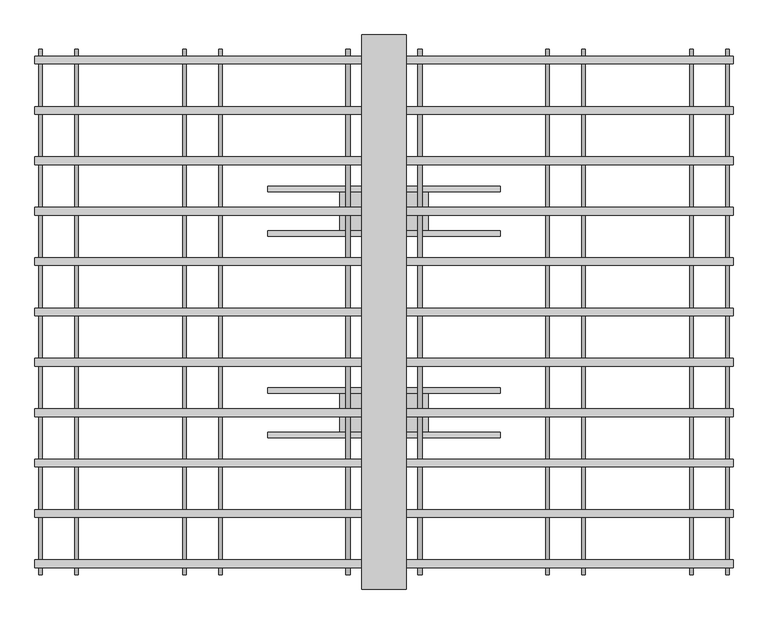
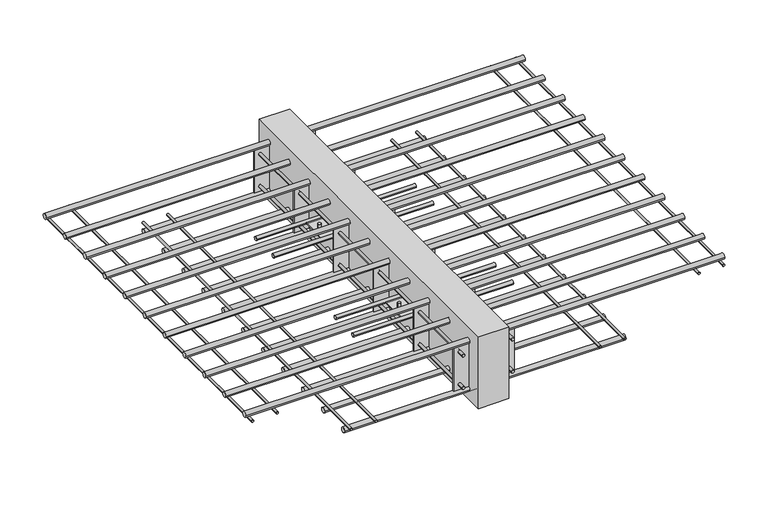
"""IFC4 building model written with IfcOpenShell, lengths in millimetres: fastener geometry, ACINOXplus_Typenreihe_K : KH+ S2."""

import ifcopenshell
import ifcopenshell.guid

model = None  # the IFC model being written
_history = None  # IfcOwnerHistory: only IFC2X3 demands one
_inside = {}  # id of a spatial element -> (the spatial element, [elements in it])
_under = {}  # id of a project, library or spatial element -> (it, [spatial elements below it])
_declared = {}  # id of a project -> (the project, [libraries it declares])
_typed = {}  # id of a type object -> (the type object, [elements of that type])
_made_of = {}  # id of a material, layer set ... -> (it, [elements and type objects made of it])


def new_model(schema):
    """Start an empty IFC model of exactly this schema.

    Asked for "IFC4X3", IfcOpenShell would pick the latest addendum, in which some entities
    have other attributes; the version numbers below select the first issue.
    IFC2X3 requires an IfcOwnerHistory on every rooted entity: one is made here for all.
    """
    global model, _history
    if schema == "IFC4X3":
        model = ifcopenshell.file(schema_version=(4, 3, 0, 0))
    else:
        model = ifcopenshell.file(schema=schema)
    _inside.clear()
    _under.clear()
    _declared.clear()
    _typed.clear()
    _made_of.clear()
    _history = None
    if model.schema == "IFC2X3":
        org = make("IfcOrganization", Name="unknown")
        user = make(
            "IfcPersonAndOrganization",
            ThePerson=make("IfcPerson", FamilyName="unknown"),
            TheOrganization=org,
        )
        app = make(
            "IfcApplication",
            ApplicationDeveloper=org,
            Version="unknown",
            ApplicationFullName="unknown",
            ApplicationIdentifier="unknown",
        )
        _history = make(
            "IfcOwnerHistory",
            OwningUser=user,
            OwningApplication=app,
            ChangeAction="ADDED",
            CreationDate=0,
        )
    return model


def make(cls, **values):
    """One entity of the class cls with the attributes given. An attribute that is None is left unset."""
    return model.create_entity(
        cls, **{name: value for name, value in values.items() if value is not None}
    )


def rooted(cls, **values):
    """An entity with a GlobalId (a new one), such as an element, a storey or a relation."""
    return make(cls, GlobalId=ifcopenshell.guid.new(), OwnerHistory=_history, **values)


def si_unit(unit_type, name, prefix=None):
    """IfcSIUnit, for example si_unit("LENGTHUNIT", "METRE", prefix="MILLI")."""
    return make("IfcSIUnit", UnitType=unit_type, Prefix=prefix, Name=name)


def assignment(units):
    """IfcUnitAssignment: the units of a project."""
    return None if units is None else make("IfcUnitAssignment", Units=units)


def point(xyz):
    """IfcCartesianPoint."""
    return None if xyz is None else make("IfcCartesianPoint", Coordinates=xyz)


def direction(xyz):
    """IfcDirection."""
    return None if xyz is None else make("IfcDirection", DirectionRatios=xyz)


def frame(location, z_axis=None, x_axis=None):
    """IfcAxis2Placement3D, a coordinate frame: its origin and axes. An axis left out is left unset."""
    return make(
        "IfcAxis2Placement3D",
        Location=point(location),
        Axis=direction(z_axis),
        RefDirection=direction(x_axis),
    )


def frame_2d(location, x_axis=None):
    """IfcAxis2Placement2D, a coordinate frame in the plane: its origin and x axis."""
    return make(
        "IfcAxis2Placement2D", Location=point(location), RefDirection=direction(x_axis)
    )


def origin():
    """The frame at (0, 0, 0) with its axes left unset."""
    return frame((0.0, 0.0, 0.0))


def place(relative_to, where):
    """IfcLocalPlacement: puts the frame where relative to a parent placement (None: the world)."""
    return make(
        "IfcLocalPlacement", PlacementRelTo=relative_to, RelativePlacement=where
    )


def context(
    kind, dimensions, precision=None, world=None, true_north=None, identifier=None
):
    """IfcGeometricRepresentationContext, for example the 3D "Model" context."""
    return make(
        "IfcGeometricRepresentationContext",
        ContextIdentifier=identifier,
        ContextType=kind,
        CoordinateSpaceDimension=dimensions,
        Precision=precision,
        WorldCoordinateSystem=world,
        TrueNorth=true_north,
    )


def project(units=None, contexts=None):
    """IfcProject with its units and contexts."""
    return rooted(
        "IfcProject",
        Name="project",
        RepresentationContexts=contexts,
        UnitsInContext=assignment(units),
    )


def spatial(cls, under=None, at=None, **own):
    """A site, building, storey or space (cls), placed at a placement, below another one or the project."""
    s = rooted(cls, ObjectPlacement=at, **own)
    if under is not None:
        _under.setdefault(under.id(), (under, []))[1].append(s)
    return s


def polyline(points):
    """IfcPolyline through the points."""
    return make("IfcPolyline", Points=[point(p) for p in points])


def circle_curve(where, radius):
    """IfcCircle in the frame where."""
    return make("IfcCircle", Position=where, Radius=radius)


def trimmed(basis, trim1, trim2, sense, master):
    """IfcTrimmedCurve: the piece of a basis curve between two trims."""
    return make(
        "IfcTrimmedCurve",
        BasisCurve=basis,
        Trim1=trim1,
        Trim2=trim2,
        SenseAgreement=sense,
        MasterRepresentation=master,
    )


def segment(curve, same_sense, transition):
    """IfcCompositeCurveSegment."""
    return make(
        "IfcCompositeCurveSegment",
        Transition=transition,
        SameSense=same_sense,
        ParentCurve=curve,
    )


def composite_curve(segments, self_intersect=None):
    """IfcCompositeCurve: segments joined end to end."""
    return make("IfcCompositeCurve", Segments=segments, SelfIntersect=self_intersect)


def outline(outer, holes=None, kind="AREA"):
    """IfcArbitraryClosedProfileDef: a profile drawn as a closed curve; with holes, ...WithVoids."""
    if holes is None:
        return make("IfcArbitraryClosedProfileDef", ProfileType=kind, OuterCurve=outer)
    return make(
        "IfcArbitraryProfileDefWithVoids",
        ProfileType=kind,
        OuterCurve=outer,
        InnerCurves=holes,
    )


def extrude(swept, where, along, depth):
    """IfcExtrudedAreaSolid: the profile swept, set in the frame where, extruded along a direction by depth."""
    return make(
        "IfcExtrudedAreaSolid",
        SweptArea=swept,
        Position=where,
        ExtrudedDirection=direction(along),
        Depth=depth,
    )


def shape(context_of_items, identifier, shape_type, items):
    """IfcShapeRepresentation: the items that make up one representation, for example the "Body"."""
    return make(
        "IfcShapeRepresentation",
        ContextOfItems=context_of_items,
        RepresentationIdentifier=identifier,
        RepresentationType=shape_type,
        Items=items,
    )


def source(mapping_origin, context_of_items, identifier, shape_type, items):
    """IfcRepresentationMap: a shape defined once, which mapped items show again and again."""
    return make(
        "IfcRepresentationMap",
        MappingOrigin=mapping_origin,
        MappedRepresentation=shape(context_of_items, identifier, shape_type, items),
    )


def transform(
    local_origin,
    x_axis=None,
    y_axis=None,
    z_axis=None,
    scale=None,
    scale2=None,
    scale3=None,
    uniform=True,
):
    """IfcCartesianTransformationOperator3D, or its non-uniform kind. x_axis, y_axis, z_axis: its Axis1, 2, 3."""
    if uniform:
        return make(
            "IfcCartesianTransformationOperator3D",
            Axis1=direction(x_axis),
            Axis2=direction(y_axis),
            LocalOrigin=point(local_origin),
            Scale=scale,
            Axis3=direction(z_axis),
        )
    return make(
        "IfcCartesianTransformationOperator3DnonUniform",
        Axis1=direction(x_axis),
        Axis2=direction(y_axis),
        LocalOrigin=point(local_origin),
        Scale=scale,
        Axis3=direction(z_axis),
        Scale2=scale2,
        Scale3=scale3,
    )


def mapped(mapping_source, mapping_target):
    """IfcMappedItem: shows the shape of a source again, moved by a transform."""
    return make(
        "IfcMappedItem", MappingSource=mapping_source, MappingTarget=mapping_target
    )


def made_of(thing, what):
    """Note that an element or type object is made of a material, layer set ...; save() writes the relation."""
    if what is not None:
        _made_of.setdefault(what.id(), (what, []))[1].append(thing)
    return thing


def element(
    cls,
    number,
    at=None,
    inside=None,
    cuts=None,
    type_object=None,
    material=None,
    context=None,
    identifier="Body",
    shape_type=None,
    held_by="IfcProductDefinitionShape",
    body=None,
    shapes=None,
    **own,
):
    """One element of the class cls, such as IfcWall. Its Tag is "e" and its number.

    at: its placement. inside: the storey or other place that contains it. cuts: it is an
    opening in that element (IfcRelVoidsElement). A single representation is given by context,
    identifier, shape_type and body (its items); several are given by shapes. held_by: the class
    of the entity that holds the representations. save() writes the other relations.
    """
    e = rooted(cls, Tag="e%d" % number, ObjectPlacement=at, **own)
    if body is not None:
        shapes = [shape(context, identifier, shape_type, body)]
    if shapes is not None:
        e.Representation = make(held_by, Representations=shapes)
    if inside is not None:
        _inside.setdefault(inside.id(), (inside, []))[1].append(e)
    if cuts is not None:
        rooted(
            "IfcRelVoidsElement", RelatingBuildingElement=cuts, RelatedOpeningElement=e
        )
    if type_object is not None:
        _typed.setdefault(type_object.id(), (type_object, []))[1].append(e)
    return made_of(e, material)


def aggregate(whole, parts):
    """IfcRelAggregates: a whole, such as a stair, and the parts it consists of."""
    return rooted("IfcRelAggregates", RelatingObject=whole, RelatedObjects=parts)


def save(model, path):
    """Write the relations noted so far, then the file.

    IfcRelAggregates (storeys below a building ...), IfcRelContainedInSpatialStructure (elements
    in a storey), IfcRelDefinesByType, IfcRelAssociatesMaterial and IfcRelDeclares: one each for
    every whole, place, type object, material and project.
    """
    for whole, parts in _under.values():
        aggregate(whole, parts)
    for where, things in _inside.values():
        rooted(
            "IfcRelContainedInSpatialStructure",
            RelatedElements=things,
            RelatingStructure=where,
        )
    for kind, things in _typed.values():
        rooted("IfcRelDefinesByType", RelatedObjects=things, RelatingType=kind)
    for what, things in _made_of.values():
        rooted("IfcRelAssociatesMaterial", RelatedObjects=things, RelatingMaterial=what)
    for by, libraries in _declared.values():
        rooted("IfcRelDeclares", RelatingContext=by, RelatedDefinitions=libraries)
    model.write(path)


def plane_surface(at):
    """IfcPlane: the flat surface through the origin of the frame at, square to its z axis."""
    return make("IfcPlane", Position=at)


def cylinder_surface(at, radius):
    """IfcCylindricalSurface: all points at the distance radius from the z axis of the frame at."""
    return make("IfcCylindricalSurface", Position=at, Radius=radius)


def advanced_brep(points, edges, surfaces, faces):
    """IfcAdvancedBrep: a solid bounded by faces that lie on surfaces and meet in shared edges.

    An edge is (start, end): straight between two places in points (the first is 0);
    or (start, end, curve); or (start, end, curve, False) where it runs against its curve.
    A face is (place in surfaces, loops), or (place, loops, False) where it looks against
    its surface's normal. A loop lists edges by number (the first is 1), with a minus sign
    where the edge is run from its end to its start. The first loop is the outer one.
    """
    corners = [point(p) for p in points]
    vertices = [make("IfcVertexPoint", VertexGeometry=c) for c in corners]
    made = []
    for start, end, *more in edges:
        made.append(
            make(
                "IfcEdgeCurve",
                EdgeStart=vertices[start],
                EdgeEnd=vertices[end],
                EdgeGeometry=more[0] if more else make("IfcPolyline", Points=[corners[start], corners[end]]),
                SameSense=more[1] if len(more) > 1 else True,
            )
        )
    hull = []
    for where, loops, *sense in faces:
        bounds = []
        for j, loop in enumerate(loops):
            ring = [make("IfcOrientedEdge", EdgeElement=made[abs(k) - 1], Orientation=k > 0) for k in loop]
            bounds.append(
                make(
                    "IfcFaceOuterBound" if j == 0 else "IfcFaceBound",
                    Bound=make("IfcEdgeLoop", EdgeList=ring),
                    Orientation=True,
                )
            )
        hull.append(make("IfcAdvancedFace", Bounds=bounds, FaceSurface=surfaces[where], SameSense=sense[0] if sense else True))
    return make("IfcAdvancedBrep", Outer=make("IfcClosedShell", CfsFaces=hull))


def fastener_6efecafc(model_context):
    return source(origin(), model_context, "Body", "SolidModel", [
        extrude(outline(composite_curve([segment(trimmed(circle_curve(frame_2d((-221.8181818, -104.0)), 5.0), [point((-226.8181818, -104.0))], [point((-216.8181818, -104.0))], False, "CARTESIAN"), True, "CONTINUOUS"), segment(trimmed(circle_curve(frame_2d((-221.8181818, -104.0)), 5.0), [point((-216.8181818, -104.0))], [point((-226.8181818, -104.0))], False, "CARTESIAN"), True, "CONTINUOUS")], self_intersect=False)), frame((-210.0, 0.0, 0.0), z_axis=(1.0, 0.0, 0.0), x_axis=(0.0, 1.0, 0.0)), (0.0, 0.0, 1.0), 420.0),
        extrude(outline(composite_curve([segment(trimmed(circle_curve(frame_2d((-141.8181818, -104.0)), 5.0), [point((-146.8181818, -104.0))], [point((-136.8181818, -104.0))], False, "CARTESIAN"), True, "CONTINUOUS"), segment(trimmed(circle_curve(frame_2d((-141.8181818, -104.0)), 5.0), [point((-136.8181818, -104.0))], [point((-146.8181818, -104.0))], False, "CARTESIAN"), True, "CONTINUOUS")], self_intersect=False)), frame((-210.0, 0.0, 0.0), z_axis=(1.0, 0.0, 0.0), x_axis=(0.0, 1.0, 0.0)), (0.0, 0.0, 1.0), 420.0),
        advanced_brep(
        [(-69.0, -181.8181818, -89.0), (-61.0, -181.8181818, -89.0), (61.0, -181.8181818, -89.0), (69.0, -181.8181818, -89.0), (-69.0, -181.8181818, -119.0), (-61.0, -181.8181818, -119.0), (61.0, -181.8181818, -119.0), (69.0, -181.8181818, -119.0), (-69.0, -181.8181818, -102.5), (-61.0, -181.8181818, -102.5), (-61.0, -181.8181818, -105.5), (-69.0, -181.8181818, -105.5), (61.0, -181.8181818, -102.5), (69.0, -181.8181818, -102.5), (69.0, -181.8181818, -105.5), (61.0, -181.8181818, -105.5), (80.0, -146.8181818, -102.5), (-80.0, -146.8181818, -102.5), (-80.0, -216.8181818, -102.5), (80.0, -216.8181818, -102.5), (80.0, -146.8181818, -105.5), (80.0, -216.8181818, -105.5), (-80.0, -216.8181818, -105.5), (-80.0, -146.8181818, -105.5)],
        [
            (0, 1, circle_curve(frame((-65.0, -181.8181818, -89.0), z_axis=(0.0, 0.0, 1.0), x_axis=(1.0, 0.0, 0.0)), 4.0)),
            (1, 0, circle_curve(frame((-65.0, -181.8181818, -89.0), z_axis=(0.0, 0.0, 1.0), x_axis=(1.0, 0.0, 0.0)), 4.0)),
            (2, 3, circle_curve(frame((65.0, -181.8181818, -89.0), z_axis=(0.0, 0.0, 1.0), x_axis=(1.0, 0.0, 0.0)), 4.0)),
            (3, 2, circle_curve(frame((65.0, -181.8181818, -89.0), z_axis=(0.0, 0.0, 1.0), x_axis=(1.0, 0.0, 0.0)), 4.0)),
            (4, 5, circle_curve(frame((-65.0, -181.8181818, -119.0), z_axis=(0.0, 0.0, -1.0), x_axis=(1.0, 0.0, 0.0)), 4.0)),
            (5, 4, circle_curve(frame((-65.0, -181.8181818, -119.0), z_axis=(0.0, 0.0, -1.0), x_axis=(1.0, 0.0, 0.0)), 4.0)),
            (6, 7, circle_curve(frame((65.0, -181.8181818, -119.0), z_axis=(0.0, 0.0, -1.0), x_axis=(1.0, 0.0, 0.0)), 4.0)),
            (7, 6, circle_curve(frame((65.0, -181.8181818, -119.0), z_axis=(0.0, 0.0, -1.0), x_axis=(1.0, 0.0, 0.0)), 4.0)),
            (0, 8),
            (8, 9, circle_curve(frame((-65.0, -181.8181818, -102.5), z_axis=(0.0, 0.0, 1.0), x_axis=(1.0, 0.0, 0.0)), 4.0)),
            (9, 1),
            (5, 10),
            (10, 11, circle_curve(frame((-65.0, -181.8181818, -105.5), z_axis=(0.0, 0.0, -1.0), x_axis=(1.0, 0.0, 0.0)), 4.0)),
            (11, 4),
            (9, 8, circle_curve(frame((-65.0, -181.8181818, -102.5), z_axis=(0.0, 0.0, 1.0), x_axis=(1.0, 0.0, 0.0)), 4.0)),
            (11, 10, circle_curve(frame((-65.0, -181.8181818, -105.5), z_axis=(0.0, 0.0, -1.0), x_axis=(1.0, 0.0, 0.0)), 4.0)),
            (2, 12),
            (12, 13, circle_curve(frame((65.0, -181.8181818, -102.5), z_axis=(0.0, 0.0, 1.0), x_axis=(1.0, 0.0, 0.0)), 4.0)),
            (13, 3),
            (7, 14),
            (14, 15, circle_curve(frame((65.0, -181.8181818, -105.5), z_axis=(0.0, 0.0, -1.0), x_axis=(1.0, 0.0, 0.0)), 4.0)),
            (15, 6),
            (13, 12, circle_curve(frame((65.0, -181.8181818, -102.5), z_axis=(0.0, 0.0, 1.0), x_axis=(1.0, 0.0, 0.0)), 4.0)),
            (15, 14, circle_curve(frame((65.0, -181.8181818, -105.5), z_axis=(0.0, 0.0, -1.0), x_axis=(1.0, 0.0, 0.0)), 4.0)),
            (16, 17),
            (17, 18),
            (18, 19),
            (19, 16),
            (20, 21),
            (21, 22),
            (22, 23),
            (23, 20),
            (16, 20),
            (23, 17),
            (22, 18),
            (21, 19),
        ],
        [
            plane_surface(frame((-61.0, -181.8181818, -89.0), z_axis=(0.0, 0.0, 1.0), x_axis=(0.0, 1.0, 0.0))),
            plane_surface(frame((-61.0, -181.8181818, -119.0), z_axis=(0.0, 0.0, -1.0), x_axis=(0.0, -1.0, 0.0))),
            cylinder_surface(frame((-65.0, -181.8181818, -119.0), z_axis=(0.0, 0.0, 1.0), x_axis=(1.0, 0.0, 0.0)), 4.0),
            cylinder_surface(frame((65.0, -181.8181818, -104.0), z_axis=(0.0, 0.0, 1.0), x_axis=(1.0, 0.0, 0.0)), 4.0),
            plane_surface(frame((-80.0, -146.8181818, -102.5), z_axis=(0.0, 0.0, 1.0), x_axis=(-1.0, 0.0, 0.0))),
            plane_surface(frame((-80.0, -146.8181818, -105.5), z_axis=(0.0, 0.0, -1.0), x_axis=(1.0, 0.0, 0.0))),
            plane_surface(frame((80.0, -146.8181818, -102.5), z_axis=(0.0, 1.0, 0.0), x_axis=(0.0, 0.0, -1.0))),
            plane_surface(frame((-80.0, -146.8181818, -102.5), z_axis=(-1.0, 0.0, 0.0), x_axis=(0.0, 0.0, -1.0))),
            plane_surface(frame((-80.0, -216.8181818, -102.5), z_axis=(0.0, -1.0, 0.0), x_axis=(0.0, 0.0, -1.0))),
            plane_surface(frame((80.0, -216.8181818, -102.5), z_axis=(1.0, 0.0, 0.0), x_axis=(0.0, 0.0, -1.0))),
        ],
        [
            (0, [[1, 2]]),
            (0, [[3, 4]]),
            (1, [[5, 6]]),
            (1, [[7, 8]]),
            (2, [[-1, 9, 10, 11]]),
            (2, [[-6, 12, 13, 14]]),
            (2, [[-2, -11, 15, -9]]),
            (2, [[-5, -14, 16, -12]]),
            (3, [[-3, 17, 18, 19]]),
            (3, [[-8, 20, 21, 22]]),
            (3, [[-4, -19, 23, -17]]),
            (3, [[-7, -22, 24, -20]]),
            (4, [[25, 26, 27, 28], [-10, -15], [-18, -23]]),
            (5, [[29, 30, 31, 32], [-13, -16], [-21, -24]]),
            (6, [[-25, 33, -32, 34]]),
            (7, [[-26, -34, -31, 35]]),
            (8, [[-27, -35, -30, 36]]),
            (9, [[-28, -36, -29, -33]]),
        ],
    ),
        extrude(outline(composite_curve([segment(trimmed(circle_curve(frame_2d((141.8181818, -104.0)), 5.0), [point((136.8181818, -104.0))], [point((146.8181818, -104.0))], False, "CARTESIAN"), True, "CONTINUOUS"), segment(trimmed(circle_curve(frame_2d((141.8181818, -104.0)), 5.0), [point((146.8181818, -104.0))], [point((136.8181818, -104.0))], False, "CARTESIAN"), True, "CONTINUOUS")], self_intersect=False)), frame((-210.0, 0.0, 0.0), z_axis=(1.0, 0.0, 0.0), x_axis=(0.0, 1.0, 0.0)), (0.0, 0.0, 1.0), 420.0),
        extrude(outline(composite_curve([segment(trimmed(circle_curve(frame_2d((221.8181818, -104.0)), 5.0), [point((216.8181818, -104.0))], [point((226.8181818, -104.0))], False, "CARTESIAN"), True, "CONTINUOUS"), segment(trimmed(circle_curve(frame_2d((221.8181818, -104.0)), 5.0), [point((226.8181818, -104.0))], [point((216.8181818, -104.0))], False, "CARTESIAN"), True, "CONTINUOUS")], self_intersect=False)), frame((-210.0, 0.0, 0.0), z_axis=(1.0, 0.0, 0.0), x_axis=(0.0, 1.0, 0.0)), (0.0, 0.0, 1.0), 420.0),
        advanced_brep(
        [(-69.0, 181.8181818, -89.0), (-61.0, 181.8181818, -89.0), (61.0, 181.8181818, -89.0), (69.0, 181.8181818, -89.0), (-69.0, 181.8181818, -119.0), (-61.0, 181.8181818, -119.0), (61.0, 181.8181818, -119.0), (69.0, 181.8181818, -119.0), (-69.0, 181.8181818, -102.5), (-61.0, 181.8181818, -102.5), (-61.0, 181.8181818, -105.5), (-69.0, 181.8181818, -105.5), (61.0, 181.8181818, -102.5), (69.0, 181.8181818, -102.5), (69.0, 181.8181818, -105.5), (61.0, 181.8181818, -105.5), (80.0, 216.8181818, -102.5), (-80.0, 216.8181818, -102.5), (-80.0, 146.8181818, -102.5), (80.0, 146.8181818, -102.5), (80.0, 216.8181818, -105.5), (80.0, 146.8181818, -105.5), (-80.0, 146.8181818, -105.5), (-80.0, 216.8181818, -105.5)],
        [
            (0, 1, circle_curve(frame((-65.0, 181.8181818, -89.0), z_axis=(0.0, 0.0, 1.0), x_axis=(1.0, 0.0, 0.0)), 4.0)),
            (1, 0, circle_curve(frame((-65.0, 181.8181818, -89.0), z_axis=(0.0, 0.0, 1.0), x_axis=(1.0, 0.0, 0.0)), 4.0)),
            (2, 3, circle_curve(frame((65.0, 181.8181818, -89.0), z_axis=(0.0, 0.0, 1.0), x_axis=(1.0, 0.0, 0.0)), 4.0)),
            (3, 2, circle_curve(frame((65.0, 181.8181818, -89.0), z_axis=(0.0, 0.0, 1.0), x_axis=(1.0, 0.0, 0.0)), 4.0)),
            (4, 5, circle_curve(frame((-65.0, 181.8181818, -119.0), z_axis=(0.0, 0.0, -1.0), x_axis=(1.0, 0.0, 0.0)), 4.0)),
            (5, 4, circle_curve(frame((-65.0, 181.8181818, -119.0), z_axis=(0.0, 0.0, -1.0), x_axis=(1.0, 0.0, 0.0)), 4.0)),
            (6, 7, circle_curve(frame((65.0, 181.8181818, -119.0), z_axis=(0.0, 0.0, -1.0), x_axis=(1.0, 0.0, 0.0)), 4.0)),
            (7, 6, circle_curve(frame((65.0, 181.8181818, -119.0), z_axis=(0.0, 0.0, -1.0), x_axis=(1.0, 0.0, 0.0)), 4.0)),
            (0, 8),
            (8, 9, circle_curve(frame((-65.0, 181.8181818, -102.5), z_axis=(0.0, 0.0, 1.0), x_axis=(1.0, 0.0, 0.0)), 4.0)),
            (9, 1),
            (5, 10),
            (10, 11, circle_curve(frame((-65.0, 181.8181818, -105.5), z_axis=(0.0, 0.0, -1.0), x_axis=(1.0, 0.0, 0.0)), 4.0)),
            (11, 4),
            (9, 8, circle_curve(frame((-65.0, 181.8181818, -102.5), z_axis=(0.0, 0.0, 1.0), x_axis=(1.0, 0.0, 0.0)), 4.0)),
            (11, 10, circle_curve(frame((-65.0, 181.8181818, -105.5), z_axis=(0.0, 0.0, -1.0), x_axis=(1.0, 0.0, 0.0)), 4.0)),
            (2, 12),
            (12, 13, circle_curve(frame((65.0, 181.8181818, -102.5), z_axis=(0.0, 0.0, 1.0), x_axis=(1.0, 0.0, 0.0)), 4.0)),
            (13, 3),
            (7, 14),
            (14, 15, circle_curve(frame((65.0, 181.8181818, -105.5), z_axis=(0.0, 0.0, -1.0), x_axis=(1.0, 0.0, 0.0)), 4.0)),
            (15, 6),
            (13, 12, circle_curve(frame((65.0, 181.8181818, -102.5), z_axis=(0.0, 0.0, 1.0), x_axis=(1.0, 0.0, 0.0)), 4.0)),
            (15, 14, circle_curve(frame((65.0, 181.8181818, -105.5), z_axis=(0.0, 0.0, -1.0), x_axis=(1.0, 0.0, 0.0)), 4.0)),
            (16, 17),
            (17, 18),
            (18, 19),
            (19, 16),
            (20, 21),
            (21, 22),
            (22, 23),
            (23, 20),
            (16, 20),
            (23, 17),
            (22, 18),
            (21, 19),
        ],
        [
            plane_surface(frame((-61.0, 181.8181818, -89.0), z_axis=(0.0, 0.0, 1.0), x_axis=(0.0, 1.0, 0.0))),
            plane_surface(frame((-61.0, 181.8181818, -119.0), z_axis=(0.0, 0.0, -1.0), x_axis=(0.0, -1.0, 0.0))),
            cylinder_surface(frame((-65.0, 181.8181818, -119.0), z_axis=(0.0, 0.0, 1.0), x_axis=(1.0, 0.0, 0.0)), 4.0),
            cylinder_surface(frame((65.0, 181.8181818, -104.0), z_axis=(0.0, 0.0, 1.0), x_axis=(1.0, 0.0, 0.0)), 4.0),
            plane_surface(frame((-80.0, 216.8181818, -102.5), z_axis=(0.0, 0.0, 1.0), x_axis=(-1.0, 0.0, 0.0))),
            plane_surface(frame((-80.0, 216.8181818, -105.5), z_axis=(0.0, 0.0, -1.0), x_axis=(1.0, 0.0, 0.0))),
            plane_surface(frame((80.0, 216.8181818, -102.5), z_axis=(0.0, 1.0, 0.0), x_axis=(0.0, 0.0, -1.0))),
            plane_surface(frame((-80.0, 216.8181818, -102.5), z_axis=(-1.0, 0.0, 0.0), x_axis=(0.0, 0.0, -1.0))),
            plane_surface(frame((-80.0, 146.8181818, -102.5), z_axis=(0.0, -1.0, 0.0), x_axis=(0.0, 0.0, -1.0))),
            plane_surface(frame((80.0, 146.8181818, -102.5), z_axis=(1.0, 0.0, 0.0), x_axis=(0.0, 0.0, -1.0))),
        ],
        [
            (0, [[1, 2]]),
            (0, [[3, 4]]),
            (1, [[5, 6]]),
            (1, [[7, 8]]),
            (2, [[-1, 9, 10, 11]]),
            (2, [[-6, 12, 13, 14]]),
            (2, [[-2, -11, 15, -9]]),
            (2, [[-5, -14, 16, -12]]),
            (3, [[-3, 17, 18, 19]]),
            (3, [[-8, 20, 21, 22]]),
            (3, [[-4, -19, 23, -17]]),
            (3, [[-7, -22, 24, -20]]),
            (4, [[25, 26, 27, 28], [-10, -15], [-18, -23]]),
            (5, [[29, 30, 31, 32], [-13, -16], [-21, -24]]),
            (6, [[-25, 33, -32, 34]]),
            (7, [[-26, -34, -31, 35]]),
            (8, [[-27, -35, -30, 36]]),
            (9, [[-28, -36, -29, -33]]),
        ],
    ),
        extrude(outline(polyline([(40.0, 500.0), (40.0, -500.0), (-40.0, -500.0), (-40.0, 500.0), (40.0, 500.0)])), frame((0.0, 0.0, -200.0), z_axis=(0.0, 0.0, 1.0), x_axis=(1.0, 0.0, 0.0)), (0.0, 0.0, 1.0), 200.0),
        extrude(outline(polyline([(80.0, -271.2272727), (80.0, -274.2272727), (-80.0, -274.2272727), (-80.0, -271.2272727), (80.0, -271.2272727)])), frame((0.0, 0.0, -164.0), z_axis=(0.0, 0.0, 1.0), x_axis=(1.0, 0.0, 0.0)), (0.0, 0.0, 1.0), 120.0),
        extrude(outline(polyline([(80.0, -89.4090909), (80.0, -92.4090909), (-80.0, -92.4090909), (-80.0, -89.4090909), (80.0, -89.4090909)])), frame((0.0, 0.0, -164.0), z_axis=(0.0, 0.0, 1.0), x_axis=(1.0, 0.0, 0.0)), (0.0, 0.0, 1.0), 120.0),
        extrude(outline(polyline([(80.0, 92.4090909), (80.0, 89.4090909), (-80.0, 89.4090909), (-80.0, 92.4090909), (80.0, 92.4090909)])), frame((0.0, 0.0, -164.0), z_axis=(0.0, 0.0, 1.0), x_axis=(1.0, 0.0, 0.0)), (0.0, 0.0, 1.0), 120.0),
        extrude(outline(polyline([(80.0, 274.2272727), (80.0, 271.2272727), (-80.0, 271.2272727), (-80.0, 274.2272727), (80.0, 274.2272727)])), frame((0.0, 0.0, -164.0), z_axis=(0.0, 0.0, 1.0), x_axis=(1.0, 0.0, 0.0)), (0.0, 0.0, 1.0), 120.0),
        extrude(outline(polyline([(80.0, -453.0454545), (80.0, -456.0454545), (-80.0, -456.0454545), (-80.0, -453.0454545), (80.0, -453.0454545)])), frame((0.0, 0.0, -164.0), z_axis=(0.0, 0.0, 1.0), x_axis=(1.0, 0.0, 0.0)), (0.0, 0.0, 1.0), 120.0),
        extrude(outline(polyline([(80.0, 456.0454545), (80.0, 453.0454545), (-80.0, 453.0454545), (-80.0, 456.0454545), (80.0, 456.0454545)])), frame((0.0, 0.0, -164.0), z_axis=(0.0, 0.0, 1.0), x_axis=(1.0, 0.0, 0.0)), (0.0, 0.0, 1.0), 120.0),
        extrude(outline(composite_curve([segment(trimmed(circle_curve(frame_2d((-149.0, -65.0)), 4.0), [point((-149.0, -61.0))], [point((-149.0, -69.0))], False, "CARTESIAN"), True, "CONTINUOUS"), segment(trimmed(circle_curve(frame_2d((-149.0, -65.0)), 4.0), [point((-149.0, -69.0))], [point((-149.0, -61.0))], False, "CARTESIAN"), True, "CONTINUOUS")], self_intersect=False)), frame((0.0, -474.5454545, 0.0), z_axis=(0.0, 1.0, 0.0), x_axis=(0.0, 0.0, 1.0)), (0.0, 0.0, 1.0), 18.5),
        extrude(outline(composite_curve([segment(trimmed(circle_curve(frame_2d((-149.0, -65.0)), 4.0), [point((-149.0, -69.0))], [point((-149.0, -61.0))], False, "CARTESIAN"), True, "CONTINUOUS"), segment(trimmed(circle_curve(frame_2d((-149.0, -65.0)), 4.0), [point((-149.0, -61.0))], [point((-149.0, -69.0))], False, "CARTESIAN"), True, "CONTINUOUS")], self_intersect=False)), frame((0.0, -453.0454545, 0.0), z_axis=(0.0, 1.0, 0.0), x_axis=(0.0, 0.0, 1.0)), (0.0, 0.0, 1.0), 724.2727273),
        extrude(outline(composite_curve([segment(trimmed(circle_curve(frame_2d((-149.0, -65.0)), 4.0), [point((-149.0, -69.0))], [point((-149.0, -61.0))], False, "CARTESIAN"), True, "CONTINUOUS"), segment(trimmed(circle_curve(frame_2d((-149.0, -65.0)), 4.0), [point((-149.0, -61.0))], [point((-149.0, -69.0))], False, "CARTESIAN"), True, "CONTINUOUS")], self_intersect=False)), frame((0.0, 456.0454545, 0.0), z_axis=(0.0, 1.0, 0.0), x_axis=(0.0, 0.0, 1.0)), (0.0, 0.0, 1.0), 18.5),
        extrude(outline(composite_curve([segment(trimmed(circle_curve(frame_2d((-149.0, -65.0)), 4.0), [point((-149.0, -69.0))], [point((-149.0, -61.0))], False, "CARTESIAN"), True, "CONTINUOUS"), segment(trimmed(circle_curve(frame_2d((-149.0, -65.0)), 4.0), [point((-149.0, -61.0))], [point((-149.0, -69.0))], False, "CARTESIAN"), True, "CONTINUOUS")], self_intersect=False)), frame((0.0, 274.2272727, 0.0), z_axis=(0.0, 1.0, 0.0), x_axis=(0.0, 0.0, 1.0)), (0.0, 0.0, 1.0), 178.8181818),
        extrude(outline(composite_curve([segment(trimmed(circle_curve(frame_2d((-149.0, 65.0)), 4.0), [point((-149.0, 69.0))], [point((-149.0, 61.0))], False, "CARTESIAN"), True, "CONTINUOUS"), segment(trimmed(circle_curve(frame_2d((-149.0, 65.0)), 4.0), [point((-149.0, 61.0))], [point((-149.0, 69.0))], False, "CARTESIAN"), True, "CONTINUOUS")], self_intersect=False)), frame((0.0, -474.5454545, 0.0), z_axis=(0.0, 1.0, 0.0), x_axis=(0.0, 0.0, 1.0)), (0.0, 0.0, 1.0), 18.5),
        extrude(outline(composite_curve([segment(trimmed(circle_curve(frame_2d((-149.0, 65.0)), 4.0), [point((-149.0, 61.0))], [point((-149.0, 69.0))], False, "CARTESIAN"), True, "CONTINUOUS"), segment(trimmed(circle_curve(frame_2d((-149.0, 65.0)), 4.0), [point((-149.0, 69.0))], [point((-149.0, 61.0))], False, "CARTESIAN"), True, "CONTINUOUS")], self_intersect=False)), frame((0.0, -453.0454545, 0.0), z_axis=(0.0, 1.0, 0.0), x_axis=(0.0, 0.0, 1.0)), (0.0, 0.0, 1.0), 724.2727273),
        extrude(outline(composite_curve([segment(trimmed(circle_curve(frame_2d((-149.0, 65.0)), 4.0), [point((-149.0, 61.0))], [point((-149.0, 69.0))], False, "CARTESIAN"), True, "CONTINUOUS"), segment(trimmed(circle_curve(frame_2d((-149.0, 65.0)), 4.0), [point((-149.0, 69.0))], [point((-149.0, 61.0))], False, "CARTESIAN"), True, "CONTINUOUS")], self_intersect=False)), frame((0.0, 456.0454545, 0.0), z_axis=(0.0, 1.0, 0.0), x_axis=(0.0, 0.0, 1.0)), (0.0, 0.0, 1.0), 18.5),
        extrude(outline(composite_curve([segment(trimmed(circle_curve(frame_2d((-149.0, 65.0)), 4.0), [point((-149.0, 61.0))], [point((-149.0, 69.0))], False, "CARTESIAN"), True, "CONTINUOUS"), segment(trimmed(circle_curve(frame_2d((-149.0, 65.0)), 4.0), [point((-149.0, 69.0))], [point((-149.0, 61.0))], False, "CARTESIAN"), True, "CONTINUOUS")], self_intersect=False)), frame((0.0, 274.2272727, 0.0), z_axis=(0.0, 1.0, 0.0), x_axis=(0.0, 0.0, 1.0)), (0.0, 0.0, 1.0), 178.8181818),
        extrude(outline(composite_curve([segment(trimmed(circle_curve(frame_2d((-59.0, -65.0)), 4.0), [point((-59.0, -61.0))], [point((-59.0, -69.0))], False, "CARTESIAN"), True, "CONTINUOUS"), segment(trimmed(circle_curve(frame_2d((-59.0, -65.0)), 4.0), [point((-59.0, -69.0))], [point((-59.0, -61.0))], False, "CARTESIAN"), True, "CONTINUOUS")], self_intersect=False)), frame((0.0, -474.5454545, 0.0), z_axis=(0.0, 1.0, 0.0), x_axis=(0.0, 0.0, 1.0)), (0.0, 0.0, 1.0), 18.5),
        extrude(outline(composite_curve([segment(trimmed(circle_curve(frame_2d((-59.0, -65.0)), 4.0), [point((-59.0, -69.0))], [point((-59.0, -61.0))], False, "CARTESIAN"), True, "CONTINUOUS"), segment(trimmed(circle_curve(frame_2d((-59.0, -65.0)), 4.0), [point((-59.0, -61.0))], [point((-59.0, -69.0))], False, "CARTESIAN"), True, "CONTINUOUS")], self_intersect=False)), frame((0.0, -453.0454545, 0.0), z_axis=(0.0, 1.0, 0.0), x_axis=(0.0, 0.0, 1.0)), (0.0, 0.0, 1.0), 724.2727273),
        extrude(outline(composite_curve([segment(trimmed(circle_curve(frame_2d((-59.0, -65.0)), 4.0), [point((-59.0, -69.0))], [point((-59.0, -61.0))], False, "CARTESIAN"), True, "CONTINUOUS"), segment(trimmed(circle_curve(frame_2d((-59.0, -65.0)), 4.0), [point((-59.0, -61.0))], [point((-59.0, -69.0))], False, "CARTESIAN"), True, "CONTINUOUS")], self_intersect=False)), frame((0.0, 456.0454545, 0.0), z_axis=(0.0, 1.0, 0.0), x_axis=(0.0, 0.0, 1.0)), (0.0, 0.0, 1.0), 18.5),
        extrude(outline(composite_curve([segment(trimmed(circle_curve(frame_2d((-59.0, -65.0)), 4.0), [point((-59.0, -69.0))], [point((-59.0, -61.0))], False, "CARTESIAN"), True, "CONTINUOUS"), segment(trimmed(circle_curve(frame_2d((-59.0, -65.0)), 4.0), [point((-59.0, -61.0))], [point((-59.0, -69.0))], False, "CARTESIAN"), True, "CONTINUOUS")], self_intersect=False)), frame((0.0, 274.2272727, 0.0), z_axis=(0.0, 1.0, 0.0), x_axis=(0.0, 0.0, 1.0)), (0.0, 0.0, 1.0), 178.8181818),
        extrude(outline(composite_curve([segment(trimmed(circle_curve(frame_2d((-59.0, 65.0)), 4.0), [point((-59.0, 69.0))], [point((-59.0, 61.0))], False, "CARTESIAN"), True, "CONTINUOUS"), segment(trimmed(circle_curve(frame_2d((-59.0, 65.0)), 4.0), [point((-59.0, 61.0))], [point((-59.0, 69.0))], False, "CARTESIAN"), True, "CONTINUOUS")], self_intersect=False)), frame((0.0, -474.5454545, 0.0), z_axis=(0.0, 1.0, 0.0), x_axis=(0.0, 0.0, 1.0)), (0.0, 0.0, 1.0), 18.5),
        extrude(outline(composite_curve([segment(trimmed(circle_curve(frame_2d((-59.0, 65.0)), 4.0), [point((-59.0, 61.0))], [point((-59.0, 69.0))], False, "CARTESIAN"), True, "CONTINUOUS"), segment(trimmed(circle_curve(frame_2d((-59.0, 65.0)), 4.0), [point((-59.0, 69.0))], [point((-59.0, 61.0))], False, "CARTESIAN"), True, "CONTINUOUS")], self_intersect=False)), frame((0.0, -453.0454545, 0.0), z_axis=(0.0, 1.0, 0.0), x_axis=(0.0, 0.0, 1.0)), (0.0, 0.0, 1.0), 724.2727273),
        extrude(outline(composite_curve([segment(trimmed(circle_curve(frame_2d((-59.0, 65.0)), 4.0), [point((-59.0, 61.0))], [point((-59.0, 69.0))], False, "CARTESIAN"), True, "CONTINUOUS"), segment(trimmed(circle_curve(frame_2d((-59.0, 65.0)), 4.0), [point((-59.0, 69.0))], [point((-59.0, 61.0))], False, "CARTESIAN"), True, "CONTINUOUS")], self_intersect=False)), frame((0.0, 456.0454545, 0.0), z_axis=(0.0, 1.0, 0.0), x_axis=(0.0, 0.0, 1.0)), (0.0, 0.0, 1.0), 18.5),
        extrude(outline(composite_curve([segment(trimmed(circle_curve(frame_2d((-59.0, 65.0)), 4.0), [point((-59.0, 61.0))], [point((-59.0, 69.0))], False, "CARTESIAN"), True, "CONTINUOUS"), segment(trimmed(circle_curve(frame_2d((-59.0, 65.0)), 4.0), [point((-59.0, 69.0))], [point((-59.0, 61.0))], False, "CARTESIAN"), True, "CONTINUOUS")], self_intersect=False)), frame((0.0, 274.2272727, 0.0), z_axis=(0.0, 1.0, 0.0), x_axis=(0.0, 0.0, 1.0)), (0.0, 0.0, 1.0), 178.8181818),
        extrude(outline(composite_curve([segment(trimmed(circle_curve(frame_2d((272.7272727, -171.0)), 7.0), [point((265.7272727, -171.0))], [point((279.7272727, -171.0))], False, "CARTESIAN"), True, "CONTINUOUS"), segment(trimmed(circle_curve(frame_2d((272.7272727, -171.0)), 7.0), [point((279.7272727, -171.0))], [point((265.7272727, -171.0))], False, "CARTESIAN"), True, "CONTINUOUS")], self_intersect=False)), frame((-370.0, 0.0, 0.0), z_axis=(1.0, 0.0, 0.0), x_axis=(0.0, 1.0, 0.0)), (0.0, 0.0, 1.0), 740.0),
        extrude(outline(composite_curve([segment(trimmed(circle_curve(frame_2d((181.8181818, -171.0)), 7.0), [point((174.8181818, -171.0))], [point((188.8181818, -171.0))], False, "CARTESIAN"), True, "CONTINUOUS"), segment(trimmed(circle_curve(frame_2d((181.8181818, -171.0)), 7.0), [point((188.8181818, -171.0))], [point((174.8181818, -171.0))], False, "CARTESIAN"), True, "CONTINUOUS")], self_intersect=False)), frame((-370.0, 0.0, 0.0), z_axis=(1.0, 0.0, 0.0), x_axis=(0.0, 1.0, 0.0)), (0.0, 0.0, 1.0), 740.0),
        extrude(outline(composite_curve([segment(trimmed(circle_curve(frame_2d((90.9090909, -171.0)), 7.0), [point((83.9090909, -171.0))], [point((97.9090909, -171.0))], False, "CARTESIAN"), True, "CONTINUOUS"), segment(trimmed(circle_curve(frame_2d((90.9090909, -171.0)), 7.0), [point((97.9090909, -171.0))], [point((83.9090909, -171.0))], False, "CARTESIAN"), True, "CONTINUOUS")], self_intersect=False)), frame((-370.0, 0.0, 0.0), z_axis=(1.0, 0.0, 0.0), x_axis=(0.0, 1.0, 0.0)), (0.0, 0.0, 1.0), 740.0),
        extrude(outline(composite_curve([segment(trimmed(circle_curve(frame_2d((0.0, -171.0)), 7.0), [point((-7.0, -171.0))], [point((7.0, -171.0))], False, "CARTESIAN"), True, "CONTINUOUS"), segment(trimmed(circle_curve(frame_2d((0.0, -171.0)), 7.0), [point((7.0, -171.0))], [point((-7.0, -171.0))], False, "CARTESIAN"), True, "CONTINUOUS")], self_intersect=False)), frame((-370.0, 0.0, 0.0), z_axis=(1.0, 0.0, 0.0), x_axis=(0.0, 1.0, 0.0)), (0.0, 0.0, 1.0), 740.0),
        extrude(outline(composite_curve([segment(trimmed(circle_curve(frame_2d((-90.9090909, -171.0)), 7.0), [point((-97.9090909, -171.0))], [point((-83.9090909, -171.0))], False, "CARTESIAN"), True, "CONTINUOUS"), segment(trimmed(circle_curve(frame_2d((-90.9090909, -171.0)), 7.0), [point((-83.9090909, -171.0))], [point((-97.9090909, -171.0))], False, "CARTESIAN"), True, "CONTINUOUS")], self_intersect=False)), frame((-370.0, 0.0, 0.0), z_axis=(1.0, 0.0, 0.0), x_axis=(0.0, 1.0, 0.0)), (0.0, 0.0, 1.0), 740.0),
        extrude(outline(composite_curve([segment(trimmed(circle_curve(frame_2d((-181.8181818, -171.0)), 7.0), [point((-188.8181818, -171.0))], [point((-174.8181818, -171.0))], False, "CARTESIAN"), True, "CONTINUOUS"), segment(trimmed(circle_curve(frame_2d((-181.8181818, -171.0)), 7.0), [point((-174.8181818, -171.0))], [point((-188.8181818, -171.0))], False, "CARTESIAN"), True, "CONTINUOUS")], self_intersect=False)), frame((-370.0, 0.0, 0.0), z_axis=(1.0, 0.0, 0.0), x_axis=(0.0, 1.0, 0.0)), (0.0, 0.0, 1.0), 740.0),
        extrude(outline(composite_curve([segment(trimmed(circle_curve(frame_2d((-272.7272727, -171.0)), 7.0), [point((-279.7272727, -171.0))], [point((-265.7272727, -171.0))], False, "CARTESIAN"), True, "CONTINUOUS"), segment(trimmed(circle_curve(frame_2d((-272.7272727, -171.0)), 7.0), [point((-265.7272727, -171.0))], [point((-279.7272727, -171.0))], False, "CARTESIAN"), True, "CONTINUOUS")], self_intersect=False)), frame((-370.0, 0.0, 0.0), z_axis=(1.0, 0.0, 0.0), x_axis=(0.0, 1.0, 0.0)), (0.0, 0.0, 1.0), 740.0),
        extrude(outline(composite_curve([segment(trimmed(circle_curve(frame_2d((363.6363636, -171.0)), 7.0), [point((356.6363636, -171.0))], [point((370.6363636, -171.0))], False, "CARTESIAN"), True, "CONTINUOUS"), segment(trimmed(circle_curve(frame_2d((363.6363636, -171.0)), 7.0), [point((370.6363636, -171.0))], [point((356.6363636, -171.0))], False, "CARTESIAN"), True, "CONTINUOUS")], self_intersect=False)), frame((-370.0, 0.0, 0.0), z_axis=(1.0, 0.0, 0.0), x_axis=(0.0, 1.0, 0.0)), (0.0, 0.0, 1.0), 740.0),
        extrude(outline(composite_curve([segment(trimmed(circle_curve(frame_2d((454.5454545, -171.0)), 7.0), [point((447.5454545, -171.0))], [point((461.5454545, -171.0))], False, "CARTESIAN"), True, "CONTINUOUS"), segment(trimmed(circle_curve(frame_2d((454.5454545, -171.0)), 7.0), [point((461.5454545, -171.0))], [point((447.5454545, -171.0))], False, "CARTESIAN"), True, "CONTINUOUS")], self_intersect=False)), frame((-370.0, 0.0, 0.0), z_axis=(1.0, 0.0, 0.0), x_axis=(0.0, 1.0, 0.0)), (0.0, 0.0, 1.0), 740.0),
        extrude(outline(composite_curve([segment(trimmed(circle_curve(frame_2d((-363.6363636, -171.0)), 7.0), [point((-370.6363636, -171.0))], [point((-356.6363636, -171.0))], False, "CARTESIAN"), True, "CONTINUOUS"), segment(trimmed(circle_curve(frame_2d((-363.6363636, -171.0)), 7.0), [point((-356.6363636, -171.0))], [point((-370.6363636, -171.0))], False, "CARTESIAN"), True, "CONTINUOUS")], self_intersect=False)), frame((-370.0, 0.0, 0.0), z_axis=(1.0, 0.0, 0.0), x_axis=(0.0, 1.0, 0.0)), (0.0, 0.0, 1.0), 740.0),
        extrude(outline(composite_curve([segment(trimmed(circle_curve(frame_2d((-454.5454545, -171.0)), 7.0), [point((-461.5454545, -171.0))], [point((-447.5454545, -171.0))], False, "CARTESIAN"), True, "CONTINUOUS"), segment(trimmed(circle_curve(frame_2d((-454.5454545, -171.0)), 7.0), [point((-447.5454545, -171.0))], [point((-461.5454545, -171.0))], False, "CARTESIAN"), True, "CONTINUOUS")], self_intersect=False)), frame((-370.0, 0.0, 0.0), z_axis=(1.0, 0.0, 0.0), x_axis=(0.0, 1.0, 0.0)), (0.0, 0.0, 1.0), 740.0),
        extrude(outline(composite_curve([segment(trimmed(circle_curve(frame_2d((272.7272727, -37.0)), 7.0), [point((265.7272727, -37.0))], [point((279.7272727, -37.0))], False, "CARTESIAN"), True, "CONTINUOUS"), segment(trimmed(circle_curve(frame_2d((272.7272727, -37.0)), 7.0), [point((279.7272727, -37.0))], [point((265.7272727, -37.0))], False, "CARTESIAN"), True, "CONTINUOUS")], self_intersect=False)), frame((-630.0, 0.0, 0.0), z_axis=(1.0, 0.0, 0.0), x_axis=(0.0, 1.0, 0.0)), (0.0, 0.0, 1.0), 1260.0),
        extrude(outline(composite_curve([segment(trimmed(circle_curve(frame_2d((181.8181818, -37.0)), 7.0), [point((174.8181818, -37.0))], [point((188.8181818, -37.0))], False, "CARTESIAN"), True, "CONTINUOUS"), segment(trimmed(circle_curve(frame_2d((181.8181818, -37.0)), 7.0), [point((188.8181818, -37.0))], [point((174.8181818, -37.0))], False, "CARTESIAN"), True, "CONTINUOUS")], self_intersect=False)), frame((-630.0, 0.0, 0.0), z_axis=(1.0, 0.0, 0.0), x_axis=(0.0, 1.0, 0.0)), (0.0, 0.0, 1.0), 1260.0),
        extrude(outline(composite_curve([segment(trimmed(circle_curve(frame_2d((90.9090909, -37.0)), 7.0), [point((83.9090909, -37.0))], [point((97.9090909, -37.0))], False, "CARTESIAN"), True, "CONTINUOUS"), segment(trimmed(circle_curve(frame_2d((90.9090909, -37.0)), 7.0), [point((97.9090909, -37.0))], [point((83.9090909, -37.0))], False, "CARTESIAN"), True, "CONTINUOUS")], self_intersect=False)), frame((-630.0, 0.0, 0.0), z_axis=(1.0, 0.0, 0.0), x_axis=(0.0, 1.0, 0.0)), (0.0, 0.0, 1.0), 1260.0),
        extrude(outline(composite_curve([segment(trimmed(circle_curve(frame_2d((0.0, -37.0)), 7.0), [point((-7.0, -37.0))], [point((7.0, -37.0))], False, "CARTESIAN"), True, "CONTINUOUS"), segment(trimmed(circle_curve(frame_2d((0.0, -37.0)), 7.0), [point((7.0, -37.0))], [point((-7.0, -37.0))], False, "CARTESIAN"), True, "CONTINUOUS")], self_intersect=False)), frame((-630.0, 0.0, 0.0), z_axis=(1.0, 0.0, 0.0), x_axis=(0.0, 1.0, 0.0)), (0.0, 0.0, 1.0), 1260.0),
        extrude(outline(composite_curve([segment(trimmed(circle_curve(frame_2d((-90.9090909, -37.0)), 7.0), [point((-97.9090909, -37.0))], [point((-83.9090909, -37.0))], False, "CARTESIAN"), True, "CONTINUOUS"), segment(trimmed(circle_curve(frame_2d((-90.9090909, -37.0)), 7.0), [point((-83.9090909, -37.0))], [point((-97.9090909, -37.0))], False, "CARTESIAN"), True, "CONTINUOUS")], self_intersect=False)), frame((-630.0, 0.0, 0.0), z_axis=(1.0, 0.0, 0.0), x_axis=(0.0, 1.0, 0.0)), (0.0, 0.0, 1.0), 1260.0),
        extrude(outline(composite_curve([segment(trimmed(circle_curve(frame_2d((-181.8181818, -37.0)), 7.0), [point((-188.8181818, -37.0))], [point((-174.8181818, -37.0))], False, "CARTESIAN"), True, "CONTINUOUS"), segment(trimmed(circle_curve(frame_2d((-181.8181818, -37.0)), 7.0), [point((-174.8181818, -37.0))], [point((-188.8181818, -37.0))], False, "CARTESIAN"), True, "CONTINUOUS")], self_intersect=False)), frame((-630.0, 0.0, 0.0), z_axis=(1.0, 0.0, 0.0), x_axis=(0.0, 1.0, 0.0)), (0.0, 0.0, 1.0), 1260.0),
        extrude(outline(composite_curve([segment(trimmed(circle_curve(frame_2d((-272.7272727, -37.0)), 7.0), [point((-279.7272727, -37.0))], [point((-265.7272727, -37.0))], False, "CARTESIAN"), True, "CONTINUOUS"), segment(trimmed(circle_curve(frame_2d((-272.7272727, -37.0)), 7.0), [point((-265.7272727, -37.0))], [point((-279.7272727, -37.0))], False, "CARTESIAN"), True, "CONTINUOUS")], self_intersect=False)), frame((-630.0, 0.0, 0.0), z_axis=(1.0, 0.0, 0.0), x_axis=(0.0, 1.0, 0.0)), (0.0, 0.0, 1.0), 1260.0),
        extrude(outline(composite_curve([segment(trimmed(circle_curve(frame_2d((363.6363636, -37.0)), 7.0), [point((356.6363636, -37.0))], [point((370.6363636, -37.0))], False, "CARTESIAN"), True, "CONTINUOUS"), segment(trimmed(circle_curve(frame_2d((363.6363636, -37.0)), 7.0), [point((370.6363636, -37.0))], [point((356.6363636, -37.0))], False, "CARTESIAN"), True, "CONTINUOUS")], self_intersect=False)), frame((-630.0, 0.0, 0.0), z_axis=(1.0, 0.0, 0.0), x_axis=(0.0, 1.0, 0.0)), (0.0, 0.0, 1.0), 1260.0),
        extrude(outline(composite_curve([segment(trimmed(circle_curve(frame_2d((454.5454545, -37.0)), 7.0), [point((447.5454545, -37.0))], [point((461.5454545, -37.0))], False, "CARTESIAN"), True, "CONTINUOUS"), segment(trimmed(circle_curve(frame_2d((454.5454545, -37.0)), 7.0), [point((461.5454545, -37.0))], [point((447.5454545, -37.0))], False, "CARTESIAN"), True, "CONTINUOUS")], self_intersect=False)), frame((-630.0, 0.0, 0.0), z_axis=(1.0, 0.0, 0.0), x_axis=(0.0, 1.0, 0.0)), (0.0, 0.0, 1.0), 1260.0),
        extrude(outline(composite_curve([segment(trimmed(circle_curve(frame_2d((-363.6363636, -37.0)), 7.0), [point((-370.6363636, -37.0))], [point((-356.6363636, -37.0))], False, "CARTESIAN"), True, "CONTINUOUS"), segment(trimmed(circle_curve(frame_2d((-363.6363636, -37.0)), 7.0), [point((-356.6363636, -37.0))], [point((-370.6363636, -37.0))], False, "CARTESIAN"), True, "CONTINUOUS")], self_intersect=False)), frame((-630.0, 0.0, 0.0), z_axis=(1.0, 0.0, 0.0), x_axis=(0.0, 1.0, 0.0)), (0.0, 0.0, 1.0), 1260.0),
        extrude(outline(composite_curve([segment(trimmed(circle_curve(frame_2d((-454.5454545, -37.0)), 7.0), [point((-461.5454545, -37.0))], [point((-447.5454545, -37.0))], False, "CARTESIAN"), True, "CONTINUOUS"), segment(trimmed(circle_curve(frame_2d((-454.5454545, -37.0)), 7.0), [point((-447.5454545, -37.0))], [point((-461.5454545, -37.0))], False, "CARTESIAN"), True, "CONTINUOUS")], self_intersect=False)), frame((-630.0, 0.0, 0.0), z_axis=(1.0, 0.0, 0.0), x_axis=(0.0, 1.0, 0.0)), (0.0, 0.0, 1.0), 1260.0),
        extrude(outline(composite_curve([segment(trimmed(circle_curve(frame_2d((-161.0, -360.0)), 3.0), [point((-161.0, -357.0))], [point((-161.0, -363.0))], False, "CARTESIAN"), True, "CONTINUOUS"), segment(trimmed(circle_curve(frame_2d((-161.0, -360.0)), 3.0), [point((-161.0, -363.0))], [point((-161.0, -357.0))], False, "CARTESIAN"), True, "CONTINUOUS")], self_intersect=False)), frame((0.0, -474.5454545, 0.0), z_axis=(0.0, 1.0, 0.0), x_axis=(0.0, 0.0, 1.0)), (0.0, 0.0, 1.0), 949.0909091),
        extrude(outline(composite_curve([segment(trimmed(circle_curve(frame_2d((-161.0, -295.0)), 3.0), [point((-161.0, -292.0))], [point((-161.0, -298.0))], False, "CARTESIAN"), True, "CONTINUOUS"), segment(trimmed(circle_curve(frame_2d((-161.0, -295.0)), 3.0), [point((-161.0, -298.0))], [point((-161.0, -292.0))], False, "CARTESIAN"), True, "CONTINUOUS")], self_intersect=False)), frame((0.0, -474.5454545, 0.0), z_axis=(0.0, 1.0, 0.0), x_axis=(0.0, 0.0, 1.0)), (0.0, 0.0, 1.0), 949.0909091),
        extrude(outline(composite_curve([segment(trimmed(circle_curve(frame_2d((-161.0, 295.0)), 3.0), [point((-161.0, 298.0))], [point((-161.0, 292.0))], False, "CARTESIAN"), True, "CONTINUOUS"), segment(trimmed(circle_curve(frame_2d((-161.0, 295.0)), 3.0), [point((-161.0, 292.0))], [point((-161.0, 298.0))], False, "CARTESIAN"), True, "CONTINUOUS")], self_intersect=False)), frame((0.0, -474.5454545, 0.0), z_axis=(0.0, 1.0, 0.0), x_axis=(0.0, 0.0, 1.0)), (0.0, 0.0, 1.0), 949.0909091),
        extrude(outline(composite_curve([segment(trimmed(circle_curve(frame_2d((-161.0, 360.0)), 3.0), [point((-161.0, 363.0))], [point((-161.0, 357.0))], False, "CARTESIAN"), True, "CONTINUOUS"), segment(trimmed(circle_curve(frame_2d((-161.0, 360.0)), 3.0), [point((-161.0, 357.0))], [point((-161.0, 363.0))], False, "CARTESIAN"), True, "CONTINUOUS")], self_intersect=False)), frame((0.0, -474.5454545, 0.0), z_axis=(0.0, 1.0, 0.0), x_axis=(0.0, 0.0, 1.0)), (0.0, 0.0, 1.0), 949.0909091),
        extrude(outline(composite_curve([segment(trimmed(circle_curve(frame_2d((-47.0, 555.0)), 3.0), [point((-47.0, 558.0))], [point((-47.0, 552.0))], False, "CARTESIAN"), True, "CONTINUOUS"), segment(trimmed(circle_curve(frame_2d((-47.0, 555.0)), 3.0), [point((-47.0, 552.0))], [point((-47.0, 558.0))], False, "CARTESIAN"), True, "CONTINUOUS")], self_intersect=False)), frame((0.0, -474.5454545, 0.0), z_axis=(0.0, 1.0, 0.0), x_axis=(0.0, 0.0, 1.0)), (0.0, 0.0, 1.0), 949.0909091),
        extrude(outline(composite_curve([segment(trimmed(circle_curve(frame_2d((-47.0, 620.0)), 3.0), [point((-47.0, 623.0))], [point((-47.0, 617.0))], False, "CARTESIAN"), True, "CONTINUOUS"), segment(trimmed(circle_curve(frame_2d((-47.0, 620.0)), 3.0), [point((-47.0, 617.0))], [point((-47.0, 623.0))], False, "CARTESIAN"), True, "CONTINUOUS")], self_intersect=False)), frame((0.0, -474.5454545, 0.0), z_axis=(0.0, 1.0, 0.0), x_axis=(0.0, 0.0, 1.0)), (0.0, 0.0, 1.0), 949.0909091),
        extrude(outline(composite_curve([segment(trimmed(circle_curve(frame_2d((-47.0, -620.0)), 3.0), [point((-47.0, -617.0))], [point((-47.0, -623.0))], False, "CARTESIAN"), True, "CONTINUOUS"), segment(trimmed(circle_curve(frame_2d((-47.0, -620.0)), 3.0), [point((-47.0, -623.0))], [point((-47.0, -617.0))], False, "CARTESIAN"), True, "CONTINUOUS")], self_intersect=False)), frame((0.0, -474.5454545, 0.0), z_axis=(0.0, 1.0, 0.0), x_axis=(0.0, 0.0, 1.0)), (0.0, 0.0, 1.0), 949.0909091),
        extrude(outline(composite_curve([segment(trimmed(circle_curve(frame_2d((-47.0, -555.0)), 3.0), [point((-47.0, -552.0))], [point((-47.0, -558.0))], False, "CARTESIAN"), True, "CONTINUOUS"), segment(trimmed(circle_curve(frame_2d((-47.0, -555.0)), 3.0), [point((-47.0, -558.0))], [point((-47.0, -552.0))], False, "CARTESIAN"), True, "CONTINUOUS")], self_intersect=False)), frame((0.0, -474.5454545, 0.0), z_axis=(0.0, 1.0, 0.0), x_axis=(0.0, 0.0, 1.0)), (0.0, 0.0, 1.0), 949.0909091),
    ])


if __name__ == "__main__":
    model = new_model("IFC4")
    model_context = context("Model", 3, world=origin())
    ifc_project = project(units=[si_unit("LENGTHUNIT", "METRE", prefix="MILLI")], contexts=[model_context])
    site = spatial("IfcSite", under=ifc_project)
    building = spatial("IfcBuilding", under=site)
    placement = place(None, origin())
    fastener_shape = fastener_6efecafc(model_context)
    element("IfcFastener", 1, ObjectType="ACINOXplus_Typenreihe_K : KH+ S2", at=placement, inside=building, context=model_context, shape_type="MappedRepresentation", body=[
        mapped(fastener_shape, transform((0.0, 0.0, 0.0), x_axis=(1.0, 0.0, 0.0), y_axis=(0.0, 1.0, 0.0), z_axis=(0.0, 0.0, 1.0))),
    ])
    save(model, "model.ifc")
